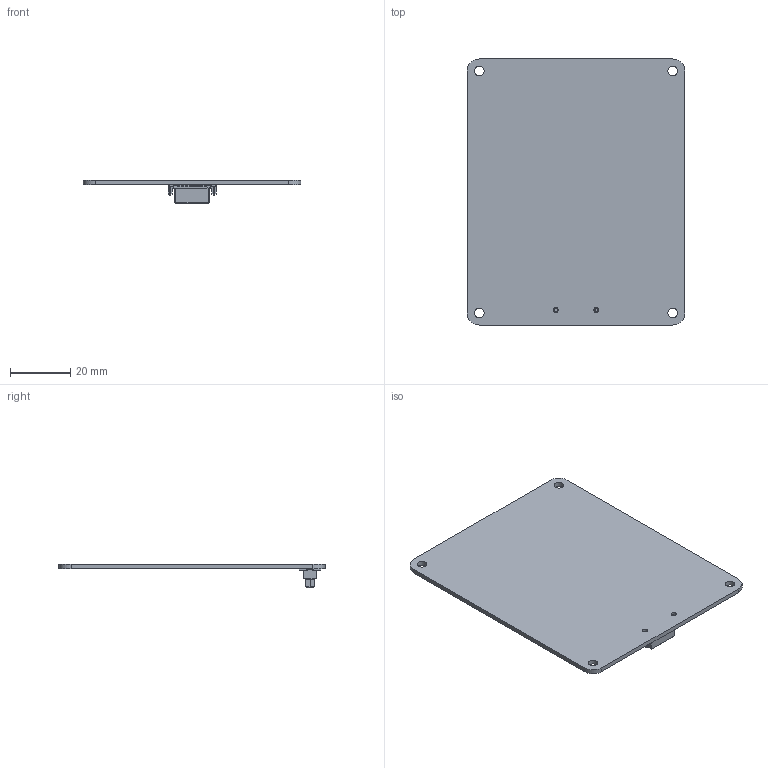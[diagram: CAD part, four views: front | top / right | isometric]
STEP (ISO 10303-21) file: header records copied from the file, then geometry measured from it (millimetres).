
FILE_DESCRIPTION(('KiCad electronic assembly'),'2;1');
FILE_NAME('GPS_TILE.step','2026-01-29T14:38:37',('Pcbnew'),('Kicad'), 'Open CASCADE STEP processor 7.8','KiCad to STEP converter','Unknown' );
FILE_SCHEMA(('AUTOMOTIVE_DESIGN { 1 0 10303 214 1 1 1 1 }'));
Length unit declared in the file: millimetre
Products named in the file (22): GPS_TILE 1; 1374028; SOLID; GPS_TILE_PCB
Assembly tree (21 placements, depth 3):
  GPS_TILE 1
    1374028
      SOLID
      SOLID
      SOLID
      SOLID
      SOLID
      SOLID
      SOLID
      SOLID
      SOLID
      SOLID
      SOLID
      SOLID
      SOLID
      SOLID
      SOLID
      SOLID
      SOLID
      SOLID
      SOLID
    GPS_TILE_PCB
Bounding box: 72 x 88 x 7.75 mm (x, y, z)
Volume: 9729.7 mm3; surface area: 14234.8 mm2
Topology: 20 solids, 20 shells, 1247 faces, 3480 edges, 2294 vertices
Faces by surface type: plane 897, cylinder 346, cone 4
Full cylindrical faces by diameter (mm): 1.6 x2, 3.2 x4
Entity records: 48966 total; most frequent: CARTESIAN_POINT 7043, ORIENTED_EDGE 6960, DIRECTION 6714, EDGE_CURVE 3480, LINE 2784, VECTOR 2784, VERTEX_POINT 2294, AXIS2_PLACEMENT_3D 1965
